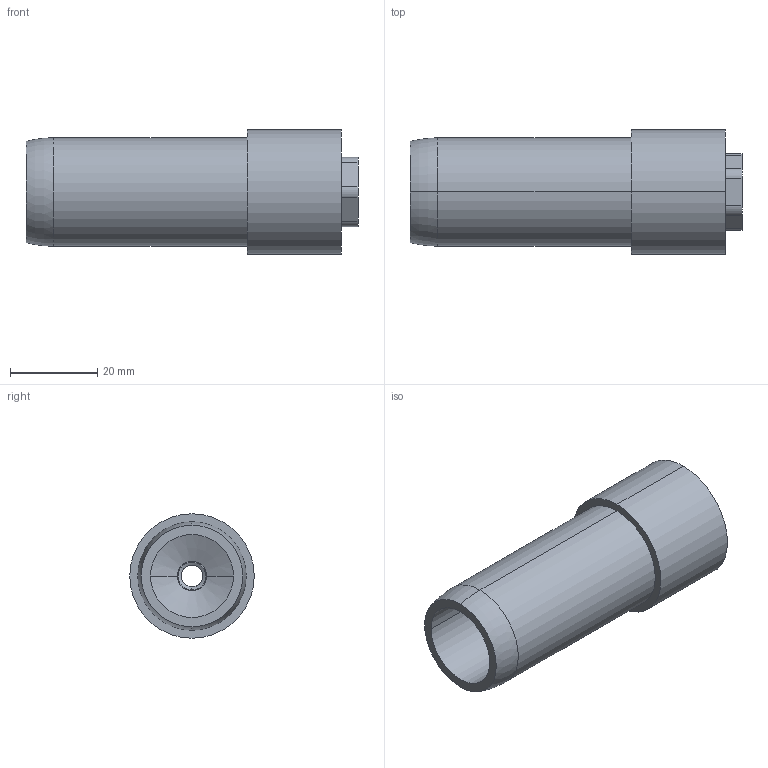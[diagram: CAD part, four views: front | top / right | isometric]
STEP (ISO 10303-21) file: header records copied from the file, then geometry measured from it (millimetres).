
FILE_DESCRIPTION (( 'STEP AP203' ), '1' );
FILE_NAME ('FDPCK-MODCON1-END-THRD-HEX.step', '2019-09-11T18:44:58', ( 'ydmin' ), ( '' ), 'SwSTEP 2.0', 'SolidWorks 2017', '' );
FILE_SCHEMA (( 'CONFIG_CONTROL_DESIGN' ));
Length unit declared in the file: inch
Products named in the file (1): FDPCK-MODCON1-END-THRD-HEX
Bounding box: 76.2 x 28.57 x 28.57 mm (x, y, z)
Volume: 23310.1 mm3; surface area: 11230.5 mm2
Topology: 2 solids, 2 shells, 39 faces, 95 edges, 62 vertices
Faces by surface type: cylinder 15, plane 12, bspline 8, torus 2, cone 2
Entity records: 2722 total; most frequent: CARTESIAN_POINT 1741, ORIENTED_EDGE 190, DIRECTION 187, EDGE_CURVE 95, AXIS2_PLACEMENT_3D 68, VERTEX_POINT 62, LINE 51, VECTOR 51
